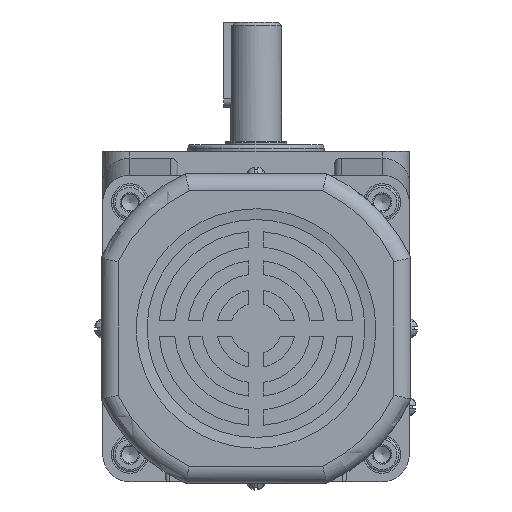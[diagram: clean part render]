
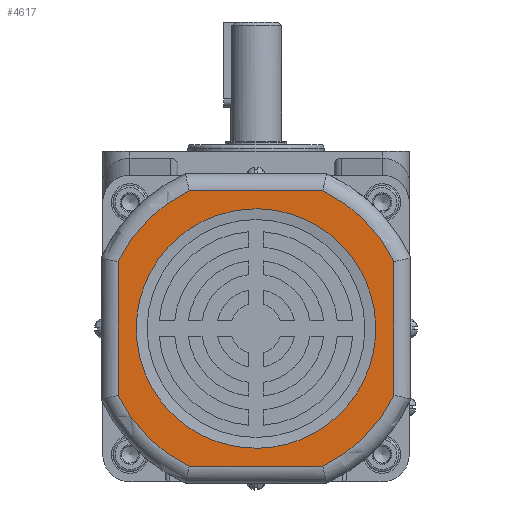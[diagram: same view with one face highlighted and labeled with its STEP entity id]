
A CAD part, front view. The second image highlights one B-rep face of the part: STEP entity #4617.
In plain terms, the highlighted planar face has unit normal (0, -1, 0).
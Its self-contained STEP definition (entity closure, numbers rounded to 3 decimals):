
#1247=LINE('',#21222,#2110);
#1248=LINE('',#21224,#2111);
#1251=LINE('',#21228,#2114);
#1253=LINE('',#21231,#2116);
#2110=VECTOR('',#16996,1.);
#2111=VECTOR('',#16999,1.);
#2114=VECTOR('',#17004,1.);
#2116=VECTOR('',#17008,1.);
#2615=B_SPLINE_CURVE_WITH_KNOTS('',3,(#21233,#21234,#21235,#21236,#21237,
#21238,#21239,#21240,#21241,#21242,#21243,#21244,#21245,#21246,#21247,#21248,
#21249,#21250,#21251,#21252,#21253,#21254,#21255,#21256,#21257,#21258,#21259,
#21260,#21261,#21262,#21263,#21264,#21265,#21266),.UNSPECIFIED.,.T.,.F.,
(2,2,2,2,2,2,2,2,2,2,2,2,2,2,2,2,2,2,2),(-0.063,0.,0.063,0.125,0.188,
0.25,0.313,0.375,0.438,0.5,0.563,0.625,0.688,0.75,0.813,0.875,0.938,
1.,1.063),.UNSPECIFIED.);
#4617=ADVANCED_FACE('',(#5503,#5504),#5096,.T.);
#5096=PLANE('',#14258);
#5503=FACE_BOUND('',#6220,.T.);
#5504=FACE_BOUND('',#6221,.T.);
#6220=EDGE_LOOP('',(#8639));
#6221=EDGE_LOOP('',(#8640,#8641,#8642,#8643,#8644,#8645,#8646,#8647));
#8639=ORIENTED_EDGE('',*,*,#11971,.F.);
#8640=ORIENTED_EDGE('',*,*,#11964,.T.);
#8641=ORIENTED_EDGE('',*,*,#11962,.T.);
#8642=ORIENTED_EDGE('',*,*,#11965,.T.);
#8643=ORIENTED_EDGE('',*,*,#11950,.T.);
#8644=ORIENTED_EDGE('',*,*,#11968,.T.);
#8645=ORIENTED_EDGE('',*,*,#11954,.T.);
#8646=ORIENTED_EDGE('',*,*,#11970,.T.);
#8647=ORIENTED_EDGE('',*,*,#11958,.T.);
#10494=VERTEX_POINT('',#21110);
#10496=VERTEX_POINT('',#21125);
#10498=VERTEX_POINT('',#21141);
#10500=VERTEX_POINT('',#21156);
#10502=VERTEX_POINT('',#21172);
#10504=VERTEX_POINT('',#21187);
#10506=VERTEX_POINT('',#21203);
#10508=VERTEX_POINT('',#21218);
#10509=VERTEX_POINT('',#21267);
#11950=EDGE_CURVE('',#10494,#10496,#12993,.T.);
#11954=EDGE_CURVE('',#10498,#10500,#12995,.T.);
#11958=EDGE_CURVE('',#10502,#10504,#12997,.T.);
#11962=EDGE_CURVE('',#10506,#10508,#12999,.T.);
#11964=EDGE_CURVE('',#10504,#10506,#1247,.T.);
#11965=EDGE_CURVE('',#10508,#10494,#1248,.T.);
#11968=EDGE_CURVE('',#10496,#10498,#1251,.T.);
#11970=EDGE_CURVE('',#10500,#10502,#1253,.T.);
#11971=EDGE_CURVE('',#10509,#10509,#2615,.T.);
#12993=CIRCLE('',#14243,45.);
#12995=CIRCLE('',#14246,45.);
#12997=CIRCLE('',#14249,45.);
#12999=CIRCLE('',#14252,45.);
#14243=AXIS2_PLACEMENT_3D('',#21126,#16973,#16974);
#14246=AXIS2_PLACEMENT_3D('',#21157,#16979,#16980);
#14249=AXIS2_PLACEMENT_3D('',#21188,#16985,#16986);
#14252=AXIS2_PLACEMENT_3D('',#21219,#16991,#16992);
#14258=AXIS2_PLACEMENT_3D('',#21268,#17011,#17012);
#16973=DIRECTION('',(0.,-1.,0.));
#16974=DIRECTION('',(0.,0.,1.));
#16979=DIRECTION('',(0.,-1.,0.));
#16980=DIRECTION('',(0.,0.,1.));
#16985=DIRECTION('',(0.,-1.,0.));
#16986=DIRECTION('',(0.,0.,1.));
#16991=DIRECTION('',(0.,-1.,0.));
#16992=DIRECTION('',(0.,0.,1.));
#16996=DIRECTION('',(0.,0.,1.));
#16999=DIRECTION('',(-1.,0.,0.));
#17004=DIRECTION('',(0.,0.,-1.));
#17008=DIRECTION('',(1.,0.,0.));
#17011=DIRECTION('',(0.,-1.,0.));
#17012=DIRECTION('',(0.,0.,1.));
#21110=CARTESIAN_POINT('',(-19.615,-275.5,-11.5));
#21125=CARTESIAN_POINT('',(-40.5,-275.5,-32.385));
#21126=CARTESIAN_POINT('',(0.,-275.5,-52.));
#21141=CARTESIAN_POINT('',(-40.5,-275.5,-71.615));
#21156=CARTESIAN_POINT('',(-19.615,-275.5,-92.5));
#21157=CARTESIAN_POINT('',(0.,-275.5,-52.));
#21172=CARTESIAN_POINT('',(19.615,-275.5,-92.5));
#21187=CARTESIAN_POINT('',(40.5,-275.5,-71.615));
#21188=CARTESIAN_POINT('',(0.,-275.5,-52.));
#21203=CARTESIAN_POINT('',(40.5,-275.5,-32.385));
#21218=CARTESIAN_POINT('',(19.615,-275.5,-11.5));
#21219=CARTESIAN_POINT('',(0.,-275.5,-52.));
#21222=CARTESIAN_POINT('',(40.5,-275.5,-52.));
#21224=CARTESIAN_POINT('',(-35.157,-275.5,-11.5));
#21228=CARTESIAN_POINT('',(-40.5,-275.5,-52.));
#21231=CARTESIAN_POINT('',(-35.157,-275.5,-92.5));
#21233=CARTESIAN_POINT('',(4.602,-275.5,-16.843));
#21234=CARTESIAN_POINT('',(-4.602,-275.5,-16.843));
#21235=CARTESIAN_POINT('',(-9.202,-275.5,-17.758));
#21236=CARTESIAN_POINT('',(-17.706,-275.5,-21.28));
#21237=CARTESIAN_POINT('',(-21.606,-275.5,-23.886));
#21238=CARTESIAN_POINT('',(-28.114,-275.5,-30.394));
#21239=CARTESIAN_POINT('',(-30.72,-275.5,-34.294));
#21240=CARTESIAN_POINT('',(-34.242,-275.5,-42.798));
#21241=CARTESIAN_POINT('',(-35.157,-275.5,-47.398));
#21242=CARTESIAN_POINT('',(-35.157,-275.5,-56.602));
#21243=CARTESIAN_POINT('',(-34.242,-275.5,-61.202));
#21244=CARTESIAN_POINT('',(-30.72,-275.5,-69.706));
#21245=CARTESIAN_POINT('',(-28.114,-275.5,-73.606));
#21246=CARTESIAN_POINT('',(-21.606,-275.5,-80.114));
#21247=CARTESIAN_POINT('',(-17.706,-275.5,-82.72));
#21248=CARTESIAN_POINT('',(-9.202,-275.5,-86.242));
#21249=CARTESIAN_POINT('',(-4.602,-275.5,-87.157));
#21250=CARTESIAN_POINT('',(4.602,-275.5,-87.157));
#21251=CARTESIAN_POINT('',(9.202,-275.5,-86.242));
#21252=CARTESIAN_POINT('',(17.706,-275.5,-82.72));
#21253=CARTESIAN_POINT('',(21.606,-275.5,-80.114));
#21254=CARTESIAN_POINT('',(28.114,-275.5,-73.606));
#21255=CARTESIAN_POINT('',(30.72,-275.5,-69.706));
#21256=CARTESIAN_POINT('',(34.242,-275.5,-61.202));
#21257=CARTESIAN_POINT('',(35.157,-275.5,-56.602));
#21258=CARTESIAN_POINT('',(35.157,-275.5,-47.398));
#21259=CARTESIAN_POINT('',(34.242,-275.5,-42.798));
#21260=CARTESIAN_POINT('',(30.72,-275.5,-34.294));
#21261=CARTESIAN_POINT('',(28.114,-275.5,-30.394));
#21262=CARTESIAN_POINT('',(21.606,-275.5,-23.886));
#21263=CARTESIAN_POINT('',(17.706,-275.5,-21.28));
#21264=CARTESIAN_POINT('',(9.202,-275.5,-17.758));
#21265=CARTESIAN_POINT('',(4.602,-275.5,-16.843));
#21266=CARTESIAN_POINT('',(-4.602,-275.5,-16.843));
#21267=CARTESIAN_POINT('',(0.,-275.5,-16.843));
#21268=CARTESIAN_POINT('',(-35.157,-275.5,-52.));
